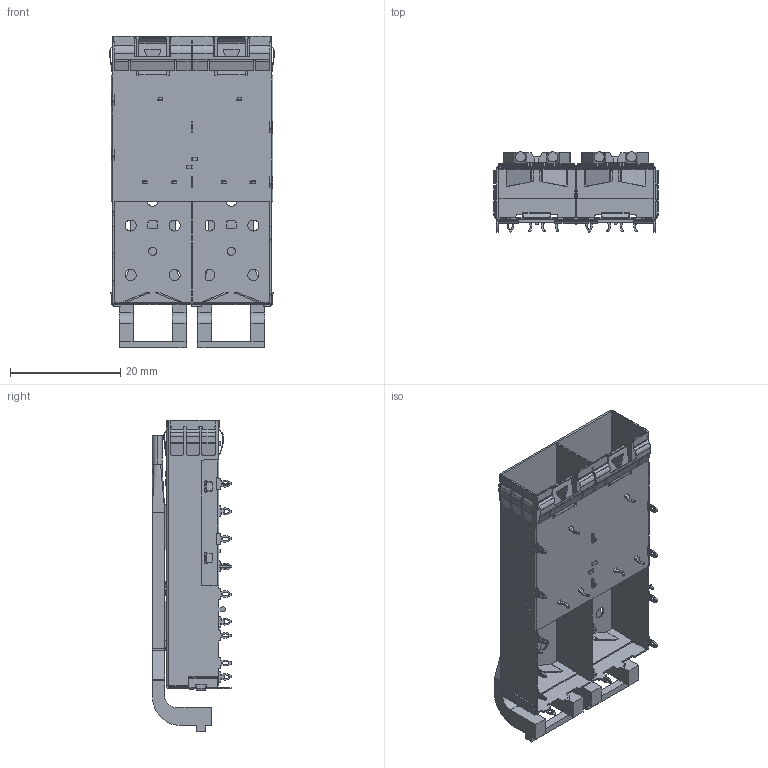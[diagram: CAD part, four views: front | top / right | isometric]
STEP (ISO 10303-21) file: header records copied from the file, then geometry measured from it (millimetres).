
FILE_DESCRIPTION (( 'STEP AP203' ), '1' );
FILE_NAME ('錨璃3^蚾饜极1.STEP', '2025-12-03T08:22:23', ( '' ), ( '' ), 'SwSTEP 2.0', 'SolidWorks 2018', '' );
FILE_SCHEMA (( 'CONFIG_CONTROL_DESIGN' ));
Length unit declared in the file: millimetre
Products named in the file (1): 錨璃3^蚾饜极1
Bounding box: 29.82 x 14.45 x 56.45 mm (x, y, z)
Volume: 2441.1 mm3; surface area: 11036.3 mm2
Topology: 1 solids, 1 shells, 2344 faces, 6206 edges, 3844 vertices
Faces by surface type: plane 1329, cylinder 937, torus 40, bspline 38
Entity records: 72969 total; most frequent: CARTESIAN_POINT 13615, DIRECTION 12594, ORIENTED_EDGE 12412, EDGE_CURVE 6206, AXIS2_PLACEMENT_3D 4225, LINE 4144, VECTOR 4144, VERTEX_POINT 3844
